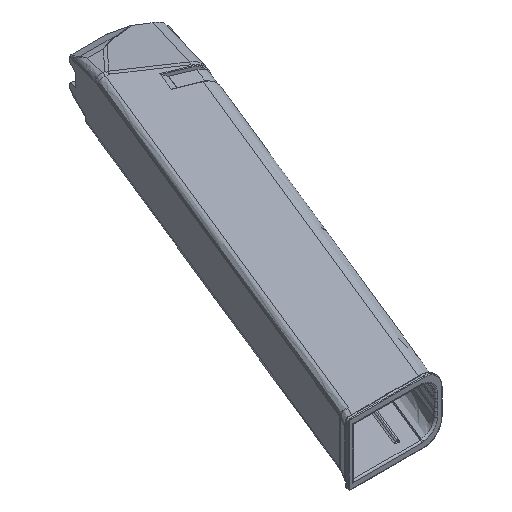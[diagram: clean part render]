
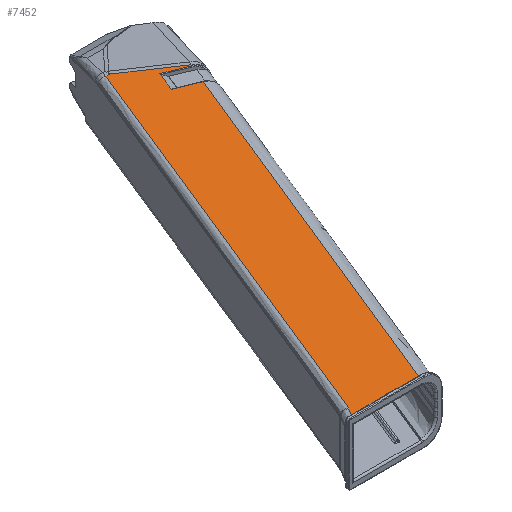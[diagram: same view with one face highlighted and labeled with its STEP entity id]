
A CAD part, isometric view. The second image highlights one B-rep face of the part: STEP entity #7452.
In plain terms, the highlighted planar face has unit normal (0, 0, 1).
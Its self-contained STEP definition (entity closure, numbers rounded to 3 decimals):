
#1500=FACE_OUTER_BOUND('',#1954,.T.);
#1954=EDGE_LOOP('',(#6879,#6880,#6881,#6882,#6883,#6884,#6885,#6886,#6887,
#6888));
#2043=LINE('',#10758,#2482);
#2094=LINE('',#12878,#2533);
#2196=LINE('',#14152,#2635);
#2256=LINE('',#16655,#2695);
#2280=LINE('',#17037,#2719);
#2284=LINE('',#17047,#2723);
#2286=LINE('',#17055,#2725);
#2287=LINE('',#17064,#2726);
#2288=LINE('',#17066,#2727);
#2393=LINE('',#20376,#2832);
#2482=VECTOR('',#8313,10.);
#2533=VECTOR('',#8522,10.);
#2635=VECTOR('',#8856,10.);
#2695=VECTOR('',#9134,10.);
#2719=VECTOR('',#9232,10.);
#2723=VECTOR('',#9240,10.);
#2725=VECTOR('',#9242,10.);
#2726=VECTOR('',#9245,10.);
#2727=VECTOR('',#9248,10.);
#2832=VECTOR('',#9769,10.);
#2936=VERTEX_POINT('',#10755);
#2937=VERTEX_POINT('',#10757);
#3020=VERTEX_POINT('',#12876);
#3185=VERTEX_POINT('',#14151);
#3277=VERTEX_POINT('',#16124);
#3326=VERTEX_POINT('',#16652);
#3363=VERTEX_POINT('',#17026);
#3366=VERTEX_POINT('',#17035);
#3370=VERTEX_POINT('',#17045);
#3371=VERTEX_POINT('',#17062);
#3661=EDGE_CURVE('',#2937,#2936,#2043,.T.);
#3805=EDGE_CURVE('',#3020,#2936,#2094,.T.);
#4028=EDGE_CURVE('',#2937,#3185,#2196,.T.);
#4252=EDGE_CURVE('',#3326,#3185,#2256,.T.);
#4315=EDGE_CURVE('',#3366,#3363,#2280,.T.);
#4320=EDGE_CURVE('',#3370,#3366,#2284,.T.);
#4322=EDGE_CURVE('',#3370,#3277,#2286,.T.);
#4324=EDGE_CURVE('',#3277,#3371,#2287,.T.);
#4325=EDGE_CURVE('',#3371,#3326,#2288,.T.);
#4640=EDGE_CURVE('',#3363,#3020,#2393,.T.);
#6879=ORIENTED_EDGE('',*,*,#3805,.F.);
#6880=ORIENTED_EDGE('',*,*,#4640,.F.);
#6881=ORIENTED_EDGE('',*,*,#4315,.F.);
#6882=ORIENTED_EDGE('',*,*,#4320,.F.);
#6883=ORIENTED_EDGE('',*,*,#4322,.T.);
#6884=ORIENTED_EDGE('',*,*,#4324,.T.);
#6885=ORIENTED_EDGE('',*,*,#4325,.T.);
#6886=ORIENTED_EDGE('',*,*,#4252,.T.);
#6887=ORIENTED_EDGE('',*,*,#4028,.F.);
#6888=ORIENTED_EDGE('',*,*,#3661,.T.);
#6999=PLANE('',#8096);
#7452=ADVANCED_FACE('',(#1500),#6999,.T.);
#8096=AXIS2_PLACEMENT_3D('',#20377,#9770,#9771);
#8313=DIRECTION('',(-0.522,-0.853,0.));
#8522=DIRECTION('',(-1.,0.,0.));
#8856=DIRECTION('',(0.376,0.927,0.));
#9134=DIRECTION('',(-1.,0.,0.));
#9232=DIRECTION('',(0.927,-0.376,0.));
#9240=DIRECTION('',(-0.376,-0.927,0.));
#9242=DIRECTION('',(0.927,-0.376,0.));
#9245=DIRECTION('',(0.376,0.927,0.));
#9248=DIRECTION('',(-0.832,0.555,0.));
#9769=DIRECTION('',(-0.376,-0.927,0.));
#9770=DIRECTION('center_axis',(0.,0.,1.));
#9771=DIRECTION('ref_axis',(1.,0.,0.));
#10755=CARTESIAN_POINT('',(-13.012,-78.302,11.526));
#10757=CARTESIAN_POINT('',(-10.778,-74.652,11.526));
#10758=CARTESIAN_POINT('',(-10.778,-74.652,11.526));
#12876=CARTESIAN_POINT('',(14.043,-78.314,11.526));
#12878=CARTESIAN_POINT('',(14.043,-78.314,11.526));
#14151=CARTESIAN_POINT('',(55.7,89.065,11.526));
#14152=CARTESIAN_POINT('',(5.399,-34.812,11.526));
#16124=CARTESIAN_POINT('',(76.519,75.548,11.526));
#16652=CARTESIAN_POINT('',(57.267,89.064,11.526));
#16655=CARTESIAN_POINT('',(57.267,89.064,11.526));
#17026=CARTESIAN_POINT('',(73.38,67.816,11.526));
#17035=CARTESIAN_POINT('',(64.346,71.484,11.526));
#17037=CARTESIAN_POINT('',(64.346,71.484,11.526));
#17045=CARTESIAN_POINT('',(67.486,79.216,11.526));
#17047=CARTESIAN_POINT('',(67.486,79.216,11.526));
#17055=CARTESIAN_POINT('',(67.486,79.216,11.526));
#17062=CARTESIAN_POINT('',(76.732,76.071,11.526));
#17064=CARTESIAN_POINT('',(76.519,75.548,11.526));
#17066=CARTESIAN_POINT('',(76.732,76.071,11.526));
#20376=CARTESIAN_POINT('',(41.241,-11.332,11.526));
#20377=CARTESIAN_POINT('Origin',(46.126,33.093,11.526));
